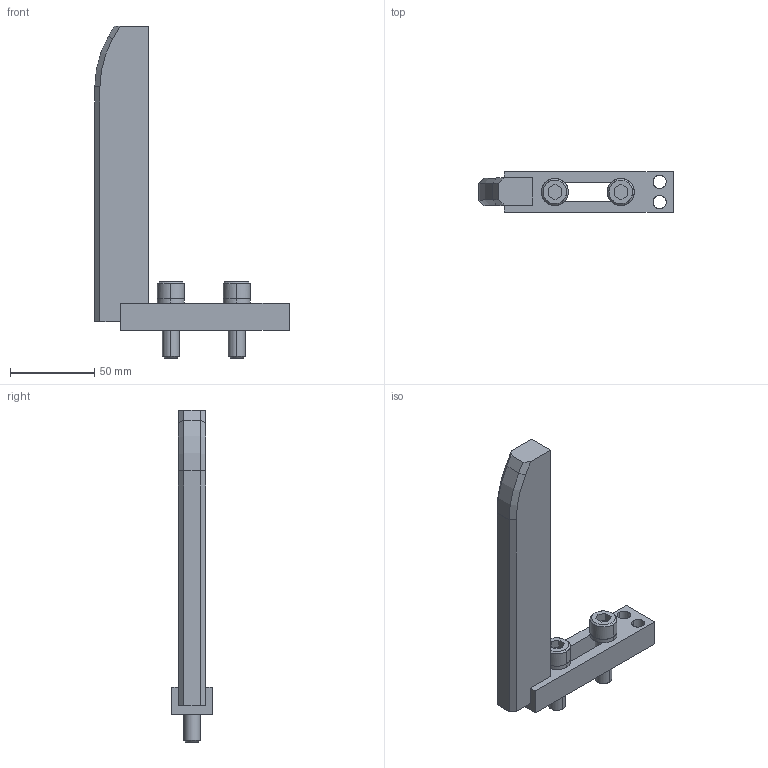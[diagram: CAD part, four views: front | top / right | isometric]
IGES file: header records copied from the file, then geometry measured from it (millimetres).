
Global section: file name: E:\UnigraphicsGraphicData\MISUMI_PRESS-PARTS\IGES\3d_ngnba-180-20-m10_01529_r00.igs; native system: NX V5.0; preprocessor: UGS NX IGES V5.0; author: MISUMI; date: 20110105.162048; units: millimetre
Bounding box: 115 x 24 x 196.5 mm (x, y, z)
Surface area: 32733.4 mm2 (no closed solid volume)
Topology: 0 solids, 0 shells, 100 faces, 630 edges, 630 vertices
Faces by surface type: bspline 100
